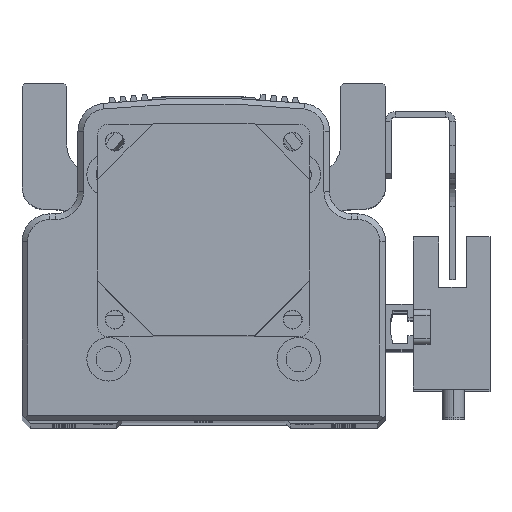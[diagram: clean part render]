
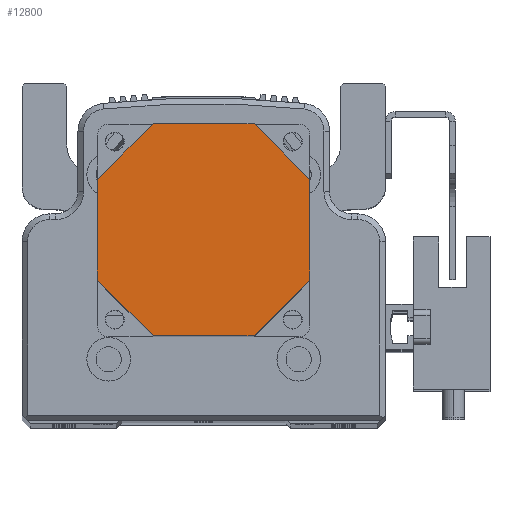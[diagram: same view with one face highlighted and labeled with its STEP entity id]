
A CAD part, top view. The second image highlights one B-rep face of the part: STEP entity #12800.
In plain terms, the highlighted planar face has unit normal (0, 0, 1) as drawn and (0, 0, -1) by its records, which use the part's own axes.
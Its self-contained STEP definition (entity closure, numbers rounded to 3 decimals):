
#703 = EDGE_LOOP ( 'NONE', ( #10208, #22756, #10212, #10283, #10218, #10203, #10289, #10273 ) ) ;
#814 = VERTEX_POINT ( 'NONE', #27339 ) ;
#1131 = VERTEX_POINT ( 'NONE', #27337 ) ;
#2826 = AXIS2_PLACEMENT_3D ( 'NONE', #26334, #26349, #26314 ) ;
#3560 = EDGE_CURVE ( 'NONE', #18438, #28945, #30175, .T. ) ;
#3568 = EDGE_CURVE ( 'NONE', #27993, #28952, #30163, .T. ) ;
#3578 = EDGE_CURVE ( 'NONE', #28945, #18436, #30178, .T. ) ;
#3599 = EDGE_CURVE ( 'NONE', #814, #22600, #30205, .T. ) ;
#3601 = EDGE_CURVE ( 'NONE', #28952, #18438, #30255, .T. ) ;
#3627 = EDGE_CURVE ( 'NONE', #22600, #1131, #30270, .T. ) ;
#3632 = EDGE_CURVE ( 'NONE', #1131, #27993, #30293, .T. ) ;
#3638 = EDGE_CURVE ( 'NONE', #18436, #814, #30297, .T. ) ;
#5616 = CARTESIAN_POINT ( 'NONE',  ( -9., 19., -84. ) ) ;
#5619 = DIRECTION ( 'NONE',  ( 0.707, 0.707, 0. ) ) ;
#5699 = CARTESIAN_POINT ( 'NONE',  ( -9., -19., -84. ) ) ;
#5708 = CARTESIAN_POINT ( 'NONE',  ( 9., 19., -84. ) ) ;
#5726 = DIRECTION ( 'NONE',  ( -0.707, 0.707, 0. ) ) ;
#5730 = DIRECTION ( 'NONE',  ( 1., 0., 0. ) ) ;
#10203 = ORIENTED_EDGE ( 'NONE', *, *, #3599, .T. ) ;
#10208 = ORIENTED_EDGE ( 'NONE', *, *, #3568, .T. ) ;
#10212 = ORIENTED_EDGE ( 'NONE', *, *, #3560, .T. ) ;
#10218 = ORIENTED_EDGE ( 'NONE', *, *, #3638, .T. ) ;
#10273 = ORIENTED_EDGE ( 'NONE', *, *, #3632, .T. ) ;
#10283 = ORIENTED_EDGE ( 'NONE', *, *, #3578, .T. ) ;
#10289 = ORIENTED_EDGE ( 'NONE', *, *, #3627, .T. ) ;
#12800 = ADVANCED_FACE ( 'NONE', ( #17669 ), #26350, .F. ) ;
#16340 = DIRECTION ( 'NONE',  ( 0., -1., 0. ) ) ;
#16358 = DIRECTION ( 'NONE',  ( 0., 1., 0. ) ) ;
#16360 = CARTESIAN_POINT ( 'NONE',  ( 19., 9., -84. ) ) ;
#16378 = CARTESIAN_POINT ( 'NONE',  ( -19., 9., -84. ) ) ;
#16421 = DIRECTION ( 'NONE',  ( -0.707, -0.707, 0. ) ) ;
#16426 = DIRECTION ( 'NONE',  ( -1., 0., 0. ) ) ;
#16445 = CARTESIAN_POINT ( 'NONE',  ( 19., 9., -84. ) ) ;
#16447 = CARTESIAN_POINT ( 'NONE',  ( 9., -19., -84. ) ) ;
#16451 = CARTESIAN_POINT ( 'NONE',  ( 19., -9., -84. ) ) ;
#16458 = DIRECTION ( 'NONE',  ( 0.707, -0.707, 0. ) ) ;
#17669 = FACE_OUTER_BOUND ( 'NONE', #703, .T. ) ;
#18436 = VERTEX_POINT ( 'NONE', #22558 ) ;
#18438 = VERTEX_POINT ( 'NONE', #22563 ) ;
#21970 = CARTESIAN_POINT ( 'NONE',  ( 19., -9., -84. ) ) ;
#22558 = CARTESIAN_POINT ( 'NONE',  ( 9., 19., -84. ) ) ;
#22563 = CARTESIAN_POINT ( 'NONE',  ( -19., 9., -84. ) ) ;
#22600 = VERTEX_POINT ( 'NONE', #21970 ) ;
#22756 = ORIENTED_EDGE ( 'NONE', *, *, #3601, .T. ) ;
#22871 = CARTESIAN_POINT ( 'NONE',  ( -9., -19., -84. ) ) ;
#23221 = CARTESIAN_POINT ( 'NONE',  ( -19., -9., -84. ) ) ;
#23223 = CARTESIAN_POINT ( 'NONE',  ( -9., 19., -84. ) ) ;
#26314 = DIRECTION ( 'NONE',  ( 1., 0., 0. ) ) ;
#26334 = CARTESIAN_POINT ( 'NONE',  ( 0., 0., -84. ) ) ;
#26349 = DIRECTION ( 'NONE',  ( 0., 0., 1. ) ) ;
#26350 = PLANE ( 'NONE',  #2826 ) ;
#27337 = CARTESIAN_POINT ( 'NONE',  ( 9., -19., -84. ) ) ;
#27339 = CARTESIAN_POINT ( 'NONE',  ( 19., 9., -84. ) ) ;
#27993 = VERTEX_POINT ( 'NONE', #22871 ) ;
#28945 = VERTEX_POINT ( 'NONE', #23223 ) ;
#28952 = VERTEX_POINT ( 'NONE', #23221 ) ;
#30150 = VECTOR ( 'NONE', #5726, 1000. ) ;
#30163 = LINE ( 'NONE', #5699, #30150 ) ;
#30170 = VECTOR ( 'NONE', #5619, 1000. ) ;
#30175 = LINE ( 'NONE', #5616, #30170 ) ;
#30178 = LINE ( 'NONE', #5708, #30187 ) ;
#30187 = VECTOR ( 'NONE', #5730, 1000. ) ;
#30196 = VECTOR ( 'NONE', #16358, 1000. ) ;
#30205 = LINE ( 'NONE', #16360, #30231 ) ;
#30231 = VECTOR ( 'NONE', #16340, 1000. ) ;
#30255 = LINE ( 'NONE', #16378, #30196 ) ;
#30270 = LINE ( 'NONE', #16451, #30278 ) ;
#30271 = VECTOR ( 'NONE', #16426, 1000. ) ;
#30278 = VECTOR ( 'NONE', #16421, 1000. ) ;
#30293 = LINE ( 'NONE', #16447, #30271 ) ;
#30297 = LINE ( 'NONE', #16445, #30299 ) ;
#30299 = VECTOR ( 'NONE', #16458, 1000. ) ;
